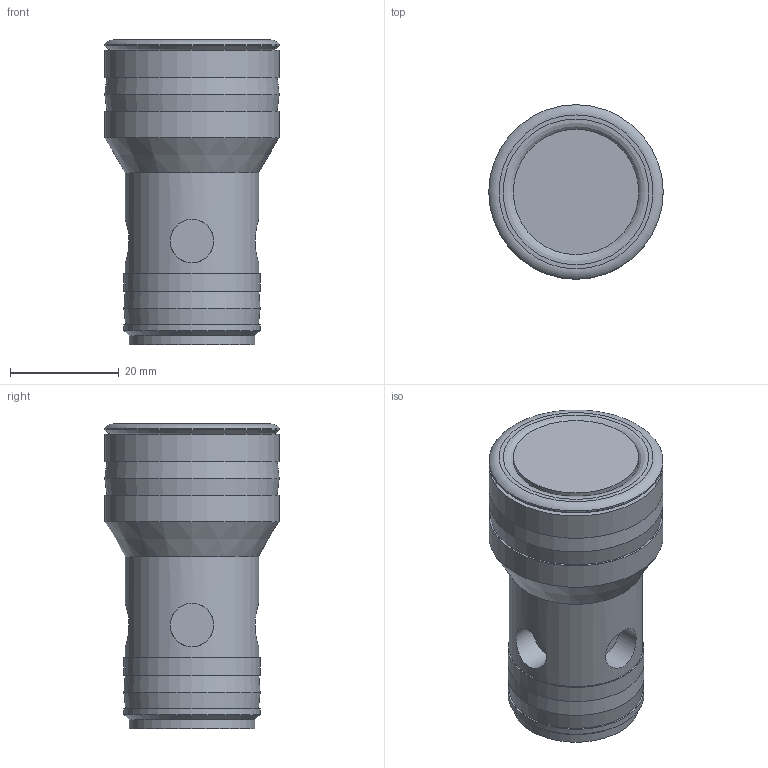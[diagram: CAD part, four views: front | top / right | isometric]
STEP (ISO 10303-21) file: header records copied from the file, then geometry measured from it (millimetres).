
FILE_DESCRIPTION(('Bauteilbeschreibung','HiCAD-Model','HiCAD-STEP-TRANSLATION','Bauteilbeschreibung'),'2;1');
FILE_NAME('C:/_EIGENE_DATEN/DXF_STEP/C_16_4208.STP','2008-10-14T17:01:27+00:00',('Konstrukteur'),('Konstrukteur Firma GmbH'),' HiCAD neXt 2007, Step 3.1.1212.3C ','HiCAD neXt 2007','confidential');
FILE_SCHEMA(('AUTOMOTIVE_DESIGN { 1 2 10303 214 0 1 1 1 }'));
Length unit declared in the file: millimetre
Products named in the file (7): C_16_4208; C_16; A4F4CC1A; A4F4CC1A0; AA7828AE; A5F2D83D; F94FBDD6
Assembly tree (6 placements, depth 4):
  C_16_4208
    C_16
      A4F4CC1A
      A4F4CC1A0
        AA7828AE
        A5F2D83D
        F94FBDD6
Bounding box: 32 x 32 x 56 mm (x, y, z)
Volume: 32092.6 mm3; surface area: 10716.3 mm2
Topology: 4 solids, 4 shells, 53 faces, 93 edges, 57 vertices
Faces by surface type: cylinder 19, plane 18, torus 10, cone 6
Full cylindrical faces by diameter (mm): 8 x4, 20.5 x3, 23 x3, 24.5 x1, 25 x2, 27.5 x3, 32 x3
Entity records: 2225 total; most frequent: CARTESIAN_POINT 1193, DIRECTION 226, AXIS2_PLACEMENT_3D 113, EDGE_LOOP 104, ORIENTED_EDGE 104, ADVANCED_FACE 53, FACE_OUTER_BOUND 53, EDGE_CURVE 52
